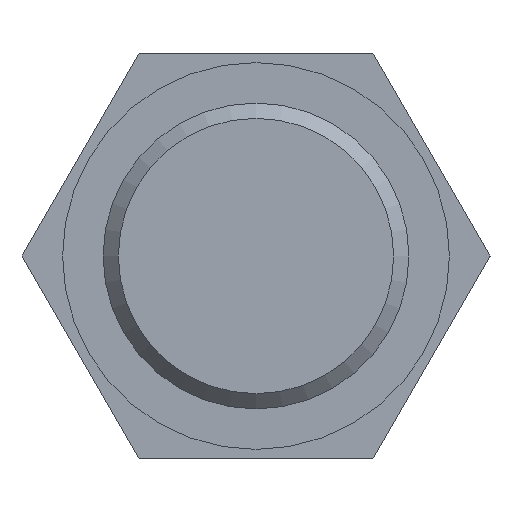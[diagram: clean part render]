
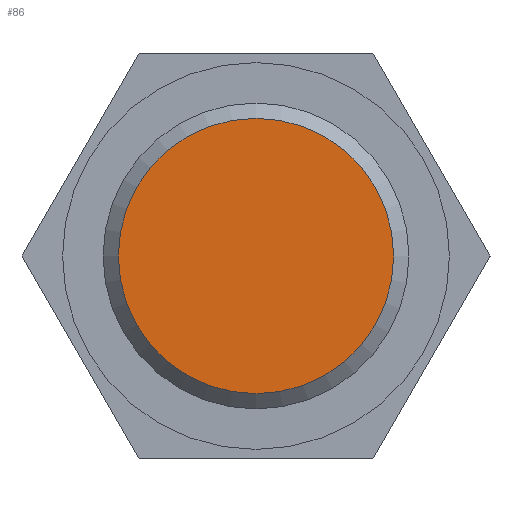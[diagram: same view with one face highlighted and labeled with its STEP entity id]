
A CAD part, left-side view. The second image highlights one B-rep face of the part: STEP entity #86.
In plain terms, the highlighted planar face has unit normal (-1, 0, 0).
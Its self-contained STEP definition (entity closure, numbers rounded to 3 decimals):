
#86 = ADVANCED_FACE( '', ( #121 ), #122, .F. );
#121 = FACE_OUTER_BOUND( '', #168, .T. );
#122 = PLANE( '', #169 );
#168 = EDGE_LOOP( '', ( #255 ) );
#169 = AXIS2_PLACEMENT_3D( '', #256, #257, #258 );
#255 = ORIENTED_EDGE( '', *, *, #324, .F. );
#256 = CARTESIAN_POINT( '', ( -29., 0., 0. ) );
#257 = DIRECTION( '', ( 1., 0., 0. ) );
#258 = DIRECTION( '', ( 0., 0., -1. ) );
#324 = EDGE_CURVE( '', #370, #370, #371, .T. );
#370 = VERTEX_POINT( '', #438 );
#371 = CIRCLE( '', #439, 7.475 );
#438 = CARTESIAN_POINT( '', ( -29., 0., -7.475 ) );
#439 = AXIS2_PLACEMENT_3D( '', #482, #483, #484 );
#482 = CARTESIAN_POINT( '', ( -29., 0., 0. ) );
#483 = DIRECTION( '', ( 1., 0., 0. ) );
#484 = DIRECTION( '', ( 0., 0., -1. ) );
